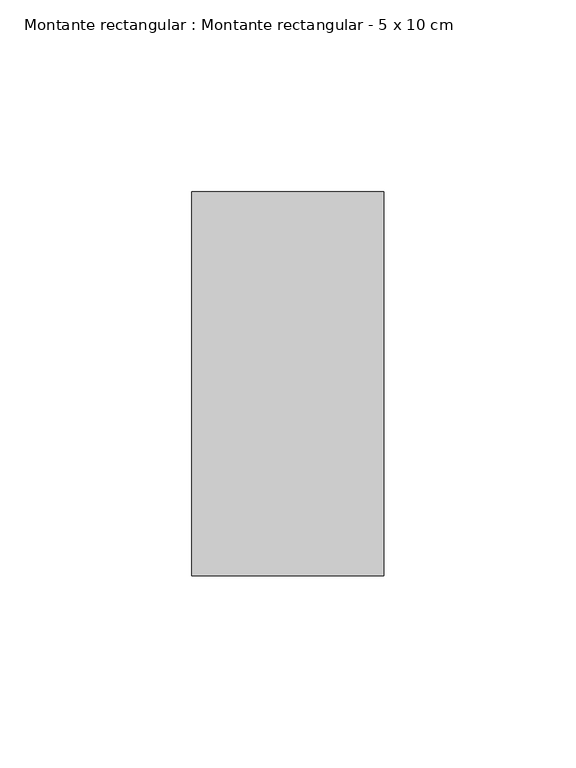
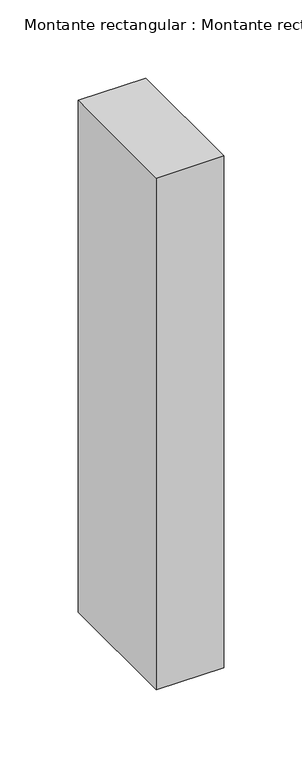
"""IFC4 building model written with IfcOpenShell, lengths in millimetres: member geometry, Montante rectangular : Montante rectangular - 5 x 10 cm."""

import ifcopenshell
import ifcopenshell.guid

model = None  # the IFC model being written
_history = None  # IfcOwnerHistory: only IFC2X3 demands one
_inside = {}  # id of a spatial element -> (the spatial element, [elements in it])
_under = {}  # id of a project, library or spatial element -> (it, [spatial elements below it])
_declared = {}  # id of a project -> (the project, [libraries it declares])
_typed = {}  # id of a type object -> (the type object, [elements of that type])
_made_of = {}  # id of a material, layer set ... -> (it, [elements and type objects made of it])


def new_model(schema):
    """Start an empty IFC model of exactly this schema.

    Asked for "IFC4X3", IfcOpenShell would pick the latest addendum, in which some entities
    have other attributes; the version numbers below select the first issue.
    IFC2X3 requires an IfcOwnerHistory on every rooted entity: one is made here for all.
    """
    global model, _history
    if schema == "IFC4X3":
        model = ifcopenshell.file(schema_version=(4, 3, 0, 0))
    else:
        model = ifcopenshell.file(schema=schema)
    _inside.clear()
    _under.clear()
    _declared.clear()
    _typed.clear()
    _made_of.clear()
    _history = None
    if model.schema == "IFC2X3":
        org = make("IfcOrganization", Name="unknown")
        user = make(
            "IfcPersonAndOrganization",
            ThePerson=make("IfcPerson", FamilyName="unknown"),
            TheOrganization=org,
        )
        app = make(
            "IfcApplication",
            ApplicationDeveloper=org,
            Version="unknown",
            ApplicationFullName="unknown",
            ApplicationIdentifier="unknown",
        )
        _history = make(
            "IfcOwnerHistory",
            OwningUser=user,
            OwningApplication=app,
            ChangeAction="ADDED",
            CreationDate=0,
        )
    return model


def make(cls, **values):
    """One entity of the class cls with the attributes given. An attribute that is None is left unset."""
    return model.create_entity(
        cls, **{name: value for name, value in values.items() if value is not None}
    )


def rooted(cls, **values):
    """An entity with a GlobalId (a new one), such as an element, a storey or a relation."""
    return make(cls, GlobalId=ifcopenshell.guid.new(), OwnerHistory=_history, **values)


def si_unit(unit_type, name, prefix=None):
    """IfcSIUnit, for example si_unit("LENGTHUNIT", "METRE", prefix="MILLI")."""
    return make("IfcSIUnit", UnitType=unit_type, Prefix=prefix, Name=name)


def assignment(units):
    """IfcUnitAssignment: the units of a project."""
    return None if units is None else make("IfcUnitAssignment", Units=units)


def point(xyz):
    """IfcCartesianPoint."""
    return None if xyz is None else make("IfcCartesianPoint", Coordinates=xyz)


def direction(xyz):
    """IfcDirection."""
    return None if xyz is None else make("IfcDirection", DirectionRatios=xyz)


def frame(location, z_axis=None, x_axis=None):
    """IfcAxis2Placement3D, a coordinate frame: its origin and axes. An axis left out is left unset."""
    return make(
        "IfcAxis2Placement3D",
        Location=point(location),
        Axis=direction(z_axis),
        RefDirection=direction(x_axis),
    )


def origin():
    """The frame at (0, 0, 0) with its axes left unset."""
    return frame((0.0, 0.0, 0.0))


def place(relative_to, where):
    """IfcLocalPlacement: puts the frame where relative to a parent placement (None: the world)."""
    return make(
        "IfcLocalPlacement", PlacementRelTo=relative_to, RelativePlacement=where
    )


def context(
    kind, dimensions, precision=None, world=None, true_north=None, identifier=None
):
    """IfcGeometricRepresentationContext, for example the 3D "Model" context."""
    return make(
        "IfcGeometricRepresentationContext",
        ContextIdentifier=identifier,
        ContextType=kind,
        CoordinateSpaceDimension=dimensions,
        Precision=precision,
        WorldCoordinateSystem=world,
        TrueNorth=true_north,
    )


def project(units=None, contexts=None):
    """IfcProject with its units and contexts."""
    return rooted(
        "IfcProject",
        Name="project",
        RepresentationContexts=contexts,
        UnitsInContext=assignment(units),
    )


def spatial(cls, under=None, at=None, **own):
    """A site, building, storey or space (cls), placed at a placement, below another one or the project."""
    s = rooted(cls, ObjectPlacement=at, **own)
    if under is not None:
        _under.setdefault(under.id(), (under, []))[1].append(s)
    return s


def polyline(points):
    """IfcPolyline through the points."""
    return make("IfcPolyline", Points=[point(p) for p in points])


def outline(outer, holes=None, kind="AREA"):
    """IfcArbitraryClosedProfileDef: a profile drawn as a closed curve; with holes, ...WithVoids."""
    if holes is None:
        return make("IfcArbitraryClosedProfileDef", ProfileType=kind, OuterCurve=outer)
    return make(
        "IfcArbitraryProfileDefWithVoids",
        ProfileType=kind,
        OuterCurve=outer,
        InnerCurves=holes,
    )


def extrude(swept, where, along, depth):
    """IfcExtrudedAreaSolid: the profile swept, set in the frame where, extruded along a direction by depth."""
    return make(
        "IfcExtrudedAreaSolid",
        SweptArea=swept,
        Position=where,
        ExtrudedDirection=direction(along),
        Depth=depth,
    )


def shape(context_of_items, identifier, shape_type, items):
    """IfcShapeRepresentation: the items that make up one representation, for example the "Body"."""
    return make(
        "IfcShapeRepresentation",
        ContextOfItems=context_of_items,
        RepresentationIdentifier=identifier,
        RepresentationType=shape_type,
        Items=items,
    )


def source(mapping_origin, context_of_items, identifier, shape_type, items):
    """IfcRepresentationMap: a shape defined once, which mapped items show again and again."""
    return make(
        "IfcRepresentationMap",
        MappingOrigin=mapping_origin,
        MappedRepresentation=shape(context_of_items, identifier, shape_type, items),
    )


def transform(
    local_origin,
    x_axis=None,
    y_axis=None,
    z_axis=None,
    scale=None,
    scale2=None,
    scale3=None,
    uniform=True,
):
    """IfcCartesianTransformationOperator3D, or its non-uniform kind. x_axis, y_axis, z_axis: its Axis1, 2, 3."""
    if uniform:
        return make(
            "IfcCartesianTransformationOperator3D",
            Axis1=direction(x_axis),
            Axis2=direction(y_axis),
            LocalOrigin=point(local_origin),
            Scale=scale,
            Axis3=direction(z_axis),
        )
    return make(
        "IfcCartesianTransformationOperator3DnonUniform",
        Axis1=direction(x_axis),
        Axis2=direction(y_axis),
        LocalOrigin=point(local_origin),
        Scale=scale,
        Axis3=direction(z_axis),
        Scale2=scale2,
        Scale3=scale3,
    )


def mapped(mapping_source, mapping_target):
    """IfcMappedItem: shows the shape of a source again, moved by a transform."""
    return make(
        "IfcMappedItem", MappingSource=mapping_source, MappingTarget=mapping_target
    )


def made_of(thing, what):
    """Note that an element or type object is made of a material, layer set ...; save() writes the relation."""
    if what is not None:
        _made_of.setdefault(what.id(), (what, []))[1].append(thing)
    return thing


def element(
    cls,
    number,
    at=None,
    inside=None,
    cuts=None,
    type_object=None,
    material=None,
    context=None,
    identifier="Body",
    shape_type=None,
    held_by="IfcProductDefinitionShape",
    body=None,
    shapes=None,
    **own,
):
    """One element of the class cls, such as IfcWall. Its Tag is "e" and its number.

    at: its placement. inside: the storey or other place that contains it. cuts: it is an
    opening in that element (IfcRelVoidsElement). A single representation is given by context,
    identifier, shape_type and body (its items); several are given by shapes. held_by: the class
    of the entity that holds the representations. save() writes the other relations.
    """
    e = rooted(cls, Tag="e%d" % number, ObjectPlacement=at, **own)
    if body is not None:
        shapes = [shape(context, identifier, shape_type, body)]
    if shapes is not None:
        e.Representation = make(held_by, Representations=shapes)
    if inside is not None:
        _inside.setdefault(inside.id(), (inside, []))[1].append(e)
    if cuts is not None:
        rooted(
            "IfcRelVoidsElement", RelatingBuildingElement=cuts, RelatedOpeningElement=e
        )
    if type_object is not None:
        _typed.setdefault(type_object.id(), (type_object, []))[1].append(e)
    return made_of(e, material)


def aggregate(whole, parts):
    """IfcRelAggregates: a whole, such as a stair, and the parts it consists of."""
    return rooted("IfcRelAggregates", RelatingObject=whole, RelatedObjects=parts)


def save(model, path):
    """Write the relations noted so far, then the file.

    IfcRelAggregates (storeys below a building ...), IfcRelContainedInSpatialStructure (elements
    in a storey), IfcRelDefinesByType, IfcRelAssociatesMaterial and IfcRelDeclares: one each for
    every whole, place, type object, material and project.
    """
    for whole, parts in _under.values():
        aggregate(whole, parts)
    for where, things in _inside.values():
        rooted(
            "IfcRelContainedInSpatialStructure",
            RelatedElements=things,
            RelatingStructure=where,
        )
    for kind, things in _typed.values():
        rooted("IfcRelDefinesByType", RelatedObjects=things, RelatingType=kind)
    for what, things in _made_of.values():
        rooted("IfcRelAssociatesMaterial", RelatedObjects=things, RelatingMaterial=what)
    for by, libraries in _declared.values():
        rooted("IfcRelDeclares", RelatingContext=by, RelatedDefinitions=libraries)
    model.write(path)


def montante_rectangular_montante_rectangular_5_x_10_cm_c89d4b8e(model_context):
    return source(origin(), model_context, "Body", "SweptSolid", [
        extrude(outline(polyline([(0.0, 50.0), (0.0, -50.0), (-50.0, -50.0), (-50.0, 50.0), (0.0, 50.0)])), frame((0.0, 0.0, -400.0), z_axis=(0.0, 0.0, 1.0), x_axis=(1.0, 0.0, 0.0)), (0.0, 0.0, 1.0), 400.0),
    ])


if __name__ == "__main__":
    model = new_model("IFC4")
    model_context = context("Model", 3, world=origin())
    ifc_project = project(units=[si_unit("LENGTHUNIT", "METRE", prefix="MILLI")], contexts=[model_context])
    site = spatial("IfcSite", under=ifc_project)
    building = spatial("IfcBuilding", under=site)
    placement = place(None, origin())
    montante_rectangular_montante_rectangular_5_x_10_cm_shape = montante_rectangular_montante_rectangular_5_x_10_cm_c89d4b8e(model_context)
    element("IfcMember", 1, ObjectType="Montante rectangular : Montante rectangular - 5 x 10 cm", at=placement, inside=building, context=model_context, shape_type="MappedRepresentation", body=[
        mapped(montante_rectangular_montante_rectangular_5_x_10_cm_shape, transform((0.0, 0.0, 0.0), x_axis=(1.0, 0.0, 0.0), y_axis=(0.0, 1.0, 0.0), z_axis=(0.0, 0.0, 1.0))),
    ])
    save(model, "model.ifc")
